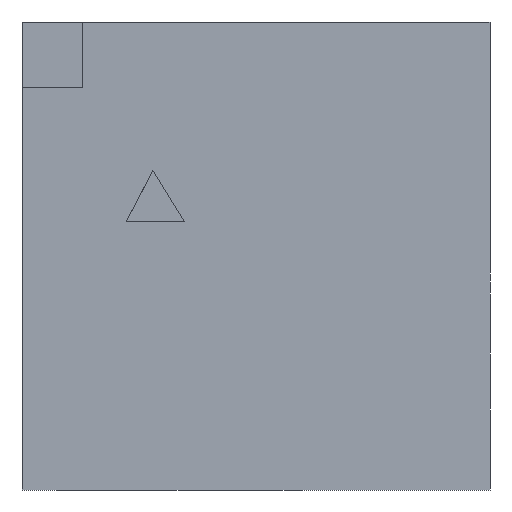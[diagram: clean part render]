
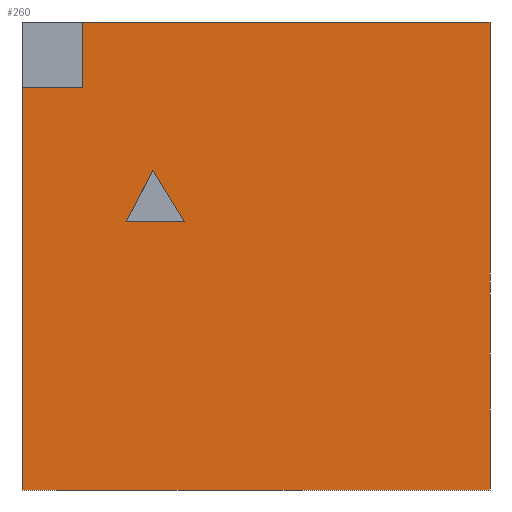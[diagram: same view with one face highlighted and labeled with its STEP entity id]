
A CAD part, front view. The second image highlights one B-rep face of the part: STEP entity #260.
In plain terms, the highlighted planar face has unit normal (0, -1, 0).
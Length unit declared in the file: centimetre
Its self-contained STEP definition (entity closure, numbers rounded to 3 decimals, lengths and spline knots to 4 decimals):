
#17 = CARTESIAN_POINT ( 'NONE',  ( 129.3107, 0., 860.8779 ) ) ;
#37 = CARTESIAN_POINT ( 'NONE',  ( 0., 0., 860.8779 ) ) ;
#41 = CARTESIAN_POINT ( 'NONE',  ( 1000., 0., 0. ) ) ;
#42 = DIRECTION ( 'NONE',  ( 0., 0., 1. ) ) ;
#44 = CARTESIAN_POINT ( 'NONE',  ( 0., 0., 0. ) ) ;
#46 = VECTOR ( 'NONE', #631, 100. ) ;
#65 = VERTEX_POINT ( 'NONE', #1742 ) ;
#88 = PLANE ( 'NONE',  #1234 ) ;
#100 = VECTOR ( 'NONE', #580, 100. ) ;
#140 = CARTESIAN_POINT ( 'NONE',  ( 222.7561, 0., 573.1523 ) ) ;
#148 = EDGE_LOOP ( 'NONE', ( #315, #553, #1188 ) ) ;
#166 = EDGE_CURVE ( 'NONE', #1399, #1135, #875, .T. ) ;
#175 = EDGE_CURVE ( 'NONE', #1472, #1135, #825, .T. ) ;
#207 = LINE ( 'NONE', #755, #1610 ) ;
#208 = EDGE_CURVE ( 'NONE', #644, #1801, #1577, .T. ) ;
#220 = ORIENTED_EDGE ( 'NONE', *, *, #166, .T. ) ;
#224 = CARTESIAN_POINT ( 'NONE',  ( 0., 0., 1000. ) ) ;
#260 = ADVANCED_FACE ( 'NONE', ( #1759, #1200 ), #88, .F. ) ;
#303 = CARTESIAN_POINT ( 'NONE',  ( 0., 0., 0. ) ) ;
#315 = ORIENTED_EDGE ( 'NONE', *, *, #1168, .F. ) ;
#333 = LINE ( 'NONE', #1477, #46 ) ;
#372 = VECTOR ( 'NONE', #536, 100. ) ;
#390 = ORIENTED_EDGE ( 'NONE', *, *, #208, .F. ) ;
#452 = ORIENTED_EDGE ( 'NONE', *, *, #1304, .F. ) ;
#466 = VECTOR ( 'NONE', #42, 100. ) ;
#531 = CARTESIAN_POINT ( 'NONE',  ( 346.8564, 0., 573.1523 ) ) ;
#536 = DIRECTION ( 'NONE',  ( 0., 0., -1. ) ) ;
#553 = ORIENTED_EDGE ( 'NONE', *, *, #1322, .F. ) ;
#580 = DIRECTION ( 'NONE',  ( 1., 0., 0. ) ) ;
#631 = DIRECTION ( 'NONE',  ( 0., 0., -1. ) ) ;
#644 = VERTEX_POINT ( 'NONE', #1432 ) ;
#656 = CARTESIAN_POINT ( 'NONE',  ( 1000., 0., 1000. ) ) ;
#663 = CARTESIAN_POINT ( 'NONE',  ( 129.3107, 0., 1000. ) ) ;
#684 = ORIENTED_EDGE ( 'NONE', *, *, #175, .F. ) ;
#720 = LINE ( 'NONE', #1173, #1565 ) ;
#744 = CARTESIAN_POINT ( 'NONE',  ( 0., 0., 1000. ) ) ;
#745 = DIRECTION ( 'NONE',  ( -0.52, 0., 0.854 ) ) ;
#755 = CARTESIAN_POINT ( 'NONE',  ( 222.7561, 0., 573.1523 ) ) ;
#766 = DIRECTION ( 'NONE',  ( 1., 0., 0. ) ) ;
#825 = LINE ( 'NONE', #656, #372 ) ;
#875 = LINE ( 'NONE', #44, #1087 ) ;
#913 = EDGE_CURVE ( 'NONE', #1801, #979, #1278, .T. ) ;
#929 = VERTEX_POINT ( 'NONE', #531 ) ;
#979 = VERTEX_POINT ( 'NONE', #663 ) ;
#1016 = CARTESIAN_POINT ( 'NONE',  ( 129.3107, 0., 860.8779 ) ) ;
#1025 = DIRECTION ( 'NONE',  ( 1., 0., 0. ) ) ;
#1075 = CARTESIAN_POINT ( 'NONE',  ( 279.6153, 0., 683.6233 ) ) ;
#1087 = VECTOR ( 'NONE', #1025, 100. ) ;
#1113 = DIRECTION ( 'NONE',  ( -0.458, 0., -0.889 ) ) ;
#1135 = VERTEX_POINT ( 'NONE', #41 ) ;
#1159 = EDGE_CURVE ( 'NONE', #644, #1399, #333, .T. ) ;
#1168 = EDGE_CURVE ( 'NONE', #1377, #929, #207, .T. ) ;
#1173 = CARTESIAN_POINT ( 'NONE',  ( 346.8564, 0., 573.1523 ) ) ;
#1188 = ORIENTED_EDGE ( 'NONE', *, *, #1495, .F. ) ;
#1197 = VECTOR ( 'NONE', #1515, 100. ) ;
#1199 = ORIENTED_EDGE ( 'NONE', *, *, #913, .F. ) ;
#1200 = FACE_OUTER_BOUND ( 'NONE', #1430, .T. ) ;
#1225 = VECTOR ( 'NONE', #1113, 100. ) ;
#1234 = AXIS2_PLACEMENT_3D ( 'NONE', #744, #1474, #1301 ) ;
#1278 = LINE ( 'NONE', #1016, #466 ) ;
#1301 = DIRECTION ( 'NONE',  ( 0., 0., 1. ) ) ;
#1304 = EDGE_CURVE ( 'NONE', #979, #1472, #1374, .T. ) ;
#1322 = EDGE_CURVE ( 'NONE', #65, #1377, #1355, .T. ) ;
#1355 = LINE ( 'NONE', #1075, #1225 ) ;
#1374 = LINE ( 'NONE', #224, #1197 ) ;
#1377 = VERTEX_POINT ( 'NONE', #140 ) ;
#1399 = VERTEX_POINT ( 'NONE', #303 ) ;
#1430 = EDGE_LOOP ( 'NONE', ( #452, #1199, #390, #1567, #220, #684 ) ) ;
#1432 = CARTESIAN_POINT ( 'NONE',  ( 0., 0., 860.8779 ) ) ;
#1472 = VERTEX_POINT ( 'NONE', #1712 ) ;
#1474 = DIRECTION ( 'NONE',  ( 0., 1., 0. ) ) ;
#1477 = CARTESIAN_POINT ( 'NONE',  ( 0., 0., 1000. ) ) ;
#1495 = EDGE_CURVE ( 'NONE', #929, #65, #720, .T. ) ;
#1515 = DIRECTION ( 'NONE',  ( 1., 0., 0. ) ) ;
#1565 = VECTOR ( 'NONE', #745, 100. ) ;
#1567 = ORIENTED_EDGE ( 'NONE', *, *, #1159, .T. ) ;
#1577 = LINE ( 'NONE', #37, #100 ) ;
#1610 = VECTOR ( 'NONE', #766, 100. ) ;
#1712 = CARTESIAN_POINT ( 'NONE',  ( 1000., 0., 1000. ) ) ;
#1742 = CARTESIAN_POINT ( 'NONE',  ( 279.6153, 0., 683.6233 ) ) ;
#1759 = FACE_BOUND ( 'NONE', #148, .T. ) ;
#1801 = VERTEX_POINT ( 'NONE', #17 ) ;
